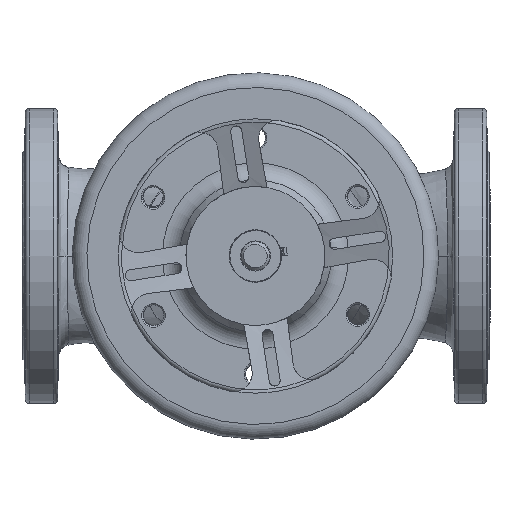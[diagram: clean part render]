
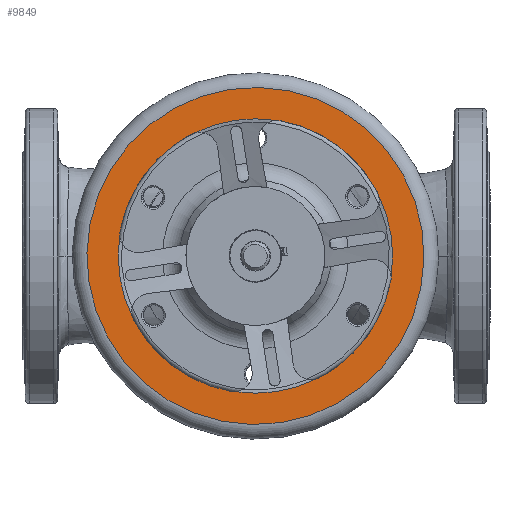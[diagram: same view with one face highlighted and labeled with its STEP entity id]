
A CAD part, front view. The second image highlights one B-rep face of the part: STEP entity #9849.
In plain terms, the highlighted planar face has unit normal (0, -1, 0).
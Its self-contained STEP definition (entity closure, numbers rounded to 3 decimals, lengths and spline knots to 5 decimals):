
#440=PLANE('',#10821);
#563=FACE_BOUND('',#1870,.T.);
#1250=FACE_OUTER_BOUND('',#1869,.T.);
#1869=EDGE_LOOP('',(#9174));
#1870=EDGE_LOOP('',(#9175,#9176,#9177,#9178,#9179,#9180,#9181,#9182,#9183,
#9184,#9185,#9186,#9187,#9188,#9189,#9190));
#2956=CIRCLE('',#10732,0.014);
#2959=CIRCLE('',#10737,0.014);
#2961=CIRCLE('',#10740,0.014);
#2965=CIRCLE('',#10747,0.10468);
#2967=CIRCLE('',#10751,0.014);
#2969=CIRCLE('',#10760,0.10468);
#2971=CIRCLE('',#10771,0.10468);
#2972=CIRCLE('',#10776,0.10468);
#2975=CIRCLE('',#10781,0.014);
#2976=CIRCLE('',#10783,0.105);
#2982=CIRCLE('',#10794,0.014);
#2983=CIRCLE('',#10796,0.105);
#2985=CIRCLE('',#10803,0.105);
#2987=CIRCLE('',#10806,0.014);
#2989=CIRCLE('',#10812,0.014);
#2991=CIRCLE('',#10815,0.105);
#2995=CIRCLE('',#10820,0.12859);
#4569=VERTEX_POINT('',#202853);
#4576=VERTEX_POINT('',#202908);
#4580=VERTEX_POINT('',#202924);
#4581=VERTEX_POINT('',#202931);
#4587=VERTEX_POINT('',#202986);
#4588=VERTEX_POINT('',#202993);
#4611=VERTEX_POINT('',#203212);
#4612=VERTEX_POINT('',#203214);
#4624=VERTEX_POINT('',#203368);
#4639=VERTEX_POINT('',#203579);
#4640=VERTEX_POINT('',#203595);
#4641=VERTEX_POINT('',#203596);
#4645=VERTEX_POINT('',#203631);
#4652=VERTEX_POINT('',#203691);
#4653=VERTEX_POINT('',#203714);
#4659=VERTEX_POINT('',#203764);
#4662=VERTEX_POINT('',#203776);
#6043=EDGE_CURVE('',#4569,#4576,#2956,.T.);
#6048=EDGE_CURVE('',#4581,#4580,#2959,.T.);
#6056=EDGE_CURVE('',#4588,#4587,#2961,.T.);
#6074=EDGE_CURVE('',#4580,#4569,#2965,.T.);
#6085=EDGE_CURVE('',#4612,#4611,#2967,.T.);
#6105=EDGE_CURVE('',#4624,#4612,#2969,.T.);
#6132=EDGE_CURVE('',#4587,#4639,#2971,.T.);
#6135=EDGE_CURVE('',#4640,#4641,#2972,.T.);
#6143=EDGE_CURVE('',#4641,#4645,#2975,.T.);
#6145=EDGE_CURVE('',#4645,#4588,#2976,.T.);
#6159=EDGE_CURVE('',#4639,#4652,#2982,.T.);
#6160=EDGE_CURVE('',#4652,#4581,#2983,.T.);
#6166=EDGE_CURVE('',#4576,#4653,#2985,.T.);
#6169=EDGE_CURVE('',#4653,#4624,#2987,.T.);
#6177=EDGE_CURVE('',#4659,#4640,#2989,.T.);
#6181=EDGE_CURVE('',#4611,#4659,#2991,.T.);
#6185=EDGE_CURVE('',#4662,#4662,#2995,.T.);
#9174=ORIENTED_EDGE('',*,*,#6185,.T.);
#9175=ORIENTED_EDGE('',*,*,#6177,.T.);
#9176=ORIENTED_EDGE('',*,*,#6135,.T.);
#9177=ORIENTED_EDGE('',*,*,#6143,.T.);
#9178=ORIENTED_EDGE('',*,*,#6145,.T.);
#9179=ORIENTED_EDGE('',*,*,#6056,.T.);
#9180=ORIENTED_EDGE('',*,*,#6132,.T.);
#9181=ORIENTED_EDGE('',*,*,#6159,.T.);
#9182=ORIENTED_EDGE('',*,*,#6160,.T.);
#9183=ORIENTED_EDGE('',*,*,#6048,.T.);
#9184=ORIENTED_EDGE('',*,*,#6074,.T.);
#9185=ORIENTED_EDGE('',*,*,#6043,.T.);
#9186=ORIENTED_EDGE('',*,*,#6166,.T.);
#9187=ORIENTED_EDGE('',*,*,#6169,.T.);
#9188=ORIENTED_EDGE('',*,*,#6105,.T.);
#9189=ORIENTED_EDGE('',*,*,#6085,.T.);
#9190=ORIENTED_EDGE('',*,*,#6181,.T.);
#9849=ADVANCED_FACE('',(#1250,#563),#440,.T.);
#10732=AXIS2_PLACEMENT_3D('',#202910,#12629,#12630);
#10737=AXIS2_PLACEMENT_3D('',#202932,#12639,#12640);
#10740=AXIS2_PLACEMENT_3D('',#202994,#12647,#12648);
#10747=AXIS2_PLACEMENT_3D('',#203121,#12665,#12666);
#10751=AXIS2_PLACEMENT_3D('',#203215,#12677,#12678);
#10760=AXIS2_PLACEMENT_3D('',#203369,#12699,#12700);
#10771=AXIS2_PLACEMENT_3D('',#203588,#12727,#12728);
#10776=AXIS2_PLACEMENT_3D('',#203597,#12739,#12740);
#10781=AXIS2_PLACEMENT_3D('',#203633,#12750,#12751);
#10783=AXIS2_PLACEMENT_3D('',#203636,#12755,#12756);
#10794=AXIS2_PLACEMENT_3D('',#203693,#12779,#12780);
#10796=AXIS2_PLACEMENT_3D('',#203695,#12783,#12784);
#10803=AXIS2_PLACEMENT_3D('',#203715,#12797,#12798);
#10806=AXIS2_PLACEMENT_3D('',#203720,#12804,#12805);
#10812=AXIS2_PLACEMENT_3D('',#203765,#12817,#12818);
#10815=AXIS2_PLACEMENT_3D('',#203771,#12825,#12826);
#10820=AXIS2_PLACEMENT_3D('',#203778,#12835,#12836);
#10821=AXIS2_PLACEMENT_3D('',#203779,#12837,#12838);
#12629=DIRECTION('center_axis',(0.,1.,0.));
#12630=DIRECTION('ref_axis',(-0.995,0.,0.105));
#12639=DIRECTION('center_axis',(0.,1.,0.));
#12640=DIRECTION('ref_axis',(-0.945,0.,-0.328));
#12647=DIRECTION('center_axis',(0.,1.,0.));
#12648=DIRECTION('ref_axis',(0.328,0.,-0.945));
#12665=DIRECTION('center_axis',(0.,1.,0.));
#12666=DIRECTION('ref_axis',(-0.954,0.,-0.299));
#12677=DIRECTION('center_axis',(0.,1.,0.));
#12678=DIRECTION('ref_axis',(0.105,0.,0.995));
#12699=DIRECTION('center_axis',(0.,1.,0.));
#12700=DIRECTION('ref_axis',(-0.299,0.,0.954));
#12727=DIRECTION('center_axis',(0.,1.,0.));
#12728=DIRECTION('ref_axis',(0.299,0.,-0.954));
#12739=DIRECTION('center_axis',(0.,1.,0.));
#12740=DIRECTION('ref_axis',(0.954,0.,0.299));
#12750=DIRECTION('center_axis',(0.,1.,0.));
#12751=DIRECTION('ref_axis',(0.995,0.,-0.105));
#12755=DIRECTION('center_axis',(0.,1.,0.));
#12756=DIRECTION('ref_axis',(0.945,0.,-0.328));
#12779=DIRECTION('center_axis',(0.,1.,0.));
#12780=DIRECTION('ref_axis',(-0.105,0.,-0.995));
#12783=DIRECTION('center_axis',(0.,1.,0.));
#12784=DIRECTION('ref_axis',(-0.328,0.,-0.945));
#12797=DIRECTION('center_axis',(0.,1.,0.));
#12798=DIRECTION('ref_axis',(-0.945,0.,0.328));
#12804=DIRECTION('center_axis',(0.,1.,0.));
#12805=DIRECTION('ref_axis',(-0.328,0.,0.945));
#12817=DIRECTION('center_axis',(0.,1.,0.));
#12818=DIRECTION('ref_axis',(0.945,0.,0.328));
#12825=DIRECTION('center_axis',(0.,1.,0.));
#12826=DIRECTION('ref_axis',(0.328,0.,0.945));
#12835=DIRECTION('center_axis',(0.,-1.,0.));
#12836=DIRECTION('ref_axis',(-1.,0.,0.));
#12837=DIRECTION('center_axis',(0.,-1.,0.));
#12838=DIRECTION('ref_axis',(0.,0.,-1.));
#202853=CARTESIAN_POINT('',(-0.09988,-0.01649,0.03133));
#202908=CARTESIAN_POINT('',(-0.09918,-0.01649,0.03446));
#202910=CARTESIAN_POINT('Origin',(-0.08596,-0.01649,
0.02987));
#202924=CARTESIAN_POINT('',(-0.09988,-0.01649,-0.03133));
#202931=CARTESIAN_POINT('',(-0.09918,-0.01649,-0.03446));
#202932=CARTESIAN_POINT('Origin',(-0.08596,-0.01649,
-0.02987));
#202986=CARTESIAN_POINT('',(0.03133,-0.01649,-0.09988));
#202993=CARTESIAN_POINT('',(0.03446,-0.01649,-0.09918));
#202994=CARTESIAN_POINT('Origin',(0.02987,-0.01649,
-0.08596));
#203121=CARTESIAN_POINT('Origin',(0.,-0.01649,
0.));
#203212=CARTESIAN_POINT('',(0.03446,-0.01649,0.09918));
#203214=CARTESIAN_POINT('',(0.03133,-0.01649,0.09988));
#203215=CARTESIAN_POINT('Origin',(0.02987,-0.01649,
0.08596));
#203368=CARTESIAN_POINT('',(-0.03133,-0.01649,0.09988));
#203369=CARTESIAN_POINT('Origin',(0.,-0.01649,
0.));
#203579=CARTESIAN_POINT('',(-0.03133,-0.01649,-0.09988));
#203588=CARTESIAN_POINT('Origin',(0.,-0.01649,
0.));
#203595=CARTESIAN_POINT('',(0.09988,-0.01649,0.03133));
#203596=CARTESIAN_POINT('',(0.09988,-0.01649,-0.03133));
#203597=CARTESIAN_POINT('Origin',(0.,-0.01649,
0.));
#203631=CARTESIAN_POINT('',(0.09918,-0.01649,-0.03446));
#203633=CARTESIAN_POINT('Origin',(0.08596,-0.01649,
-0.02987));
#203636=CARTESIAN_POINT('Origin',(0.,-0.01649,
0.));
#203691=CARTESIAN_POINT('',(-0.03446,-0.01649,-0.09918));
#203693=CARTESIAN_POINT('Origin',(-0.02987,-0.01649,
-0.08596));
#203695=CARTESIAN_POINT('Origin',(0.,-0.01649,
0.));
#203714=CARTESIAN_POINT('',(-0.03446,-0.01649,0.09918));
#203715=CARTESIAN_POINT('Origin',(0.,-0.01649,
0.));
#203720=CARTESIAN_POINT('Origin',(-0.02987,-0.01649,
0.08596));
#203764=CARTESIAN_POINT('',(0.09918,-0.01649,0.03446));
#203765=CARTESIAN_POINT('Origin',(0.08596,-0.01649,
0.02987));
#203771=CARTESIAN_POINT('Origin',(0.,-0.01649,
0.));
#203776=CARTESIAN_POINT('',(0.12859,-0.01649,0.));
#203778=CARTESIAN_POINT('Origin',(0.,-0.01649,
0.));
#203779=CARTESIAN_POINT('Origin',(0.,-0.01649,
0.12859));
